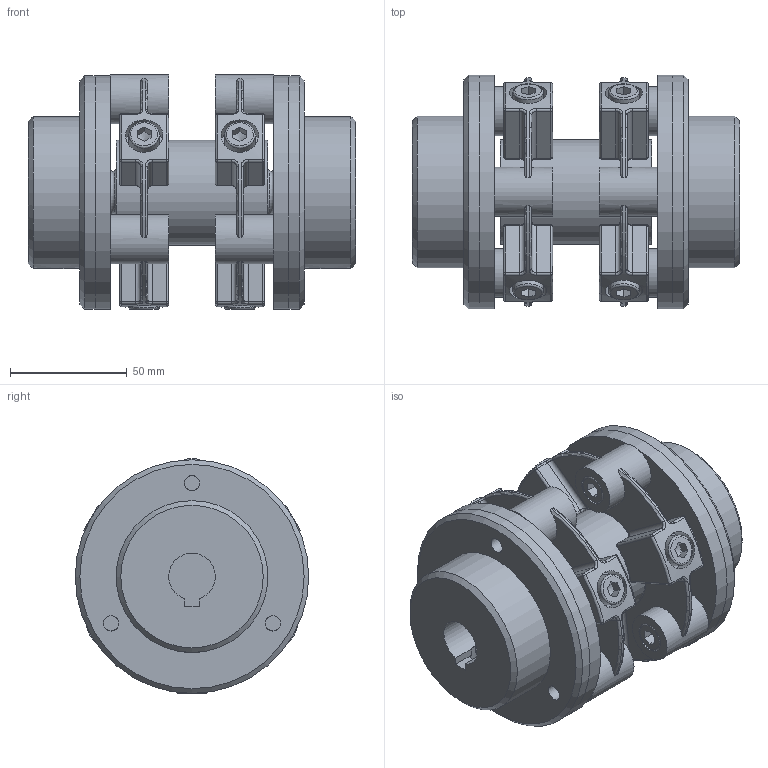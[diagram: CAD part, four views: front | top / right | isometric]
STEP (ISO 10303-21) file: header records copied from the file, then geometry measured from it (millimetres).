
FILE_DESCRIPTION(/* description */ (''),/* implementation_level */ '2;1');
FILE_NAME(/* name */ 'GXZ04-L80-20-PF-20-PF',/* time_stamp */ '2024-01-05T15:37:04+01:00',/* author */ ('M. Horlacher'),/* organization */ (''),/* preprocessor_version */ 'ST-DEVELOPER v20',/* originating_system */ 'Autodesk Inventor 2024',/* authorisation */ '');
FILE_SCHEMA (('AUTOMOTIVE_DESIGN { 1 0 10303 214 3 1 1 }'));
Length unit declared in the file: millimetre
Products named in the file (10): RP STEP; VE Rohr Dummy; GX04-Nabe; GX04 Befestigungssatz; 080305-1408s; 100305-1451s; ISO 4762 - M8 x 20 - 8.8 - VZ A1A; ISO 4762 - M8 x 25 - 8.8 - VZ A1A; GX04-Nabe_1; 260511-1417rb
Assembly tree (15 placements, depth 3):
  RP STEP
    VE Rohr Dummy
    GX04 Befestigungssatz  x2
      080305-1408s
      100305-1451s
      ISO 4762 - M8 x 20 - 8.8 - VZ A1A
      ISO 4762 - M8 x 25 - 8.8 - VZ A1A
    GX04-Nabe
    GX04-Nabe_1
    260511-1417rb  x2
Bounding box: 140 x 100 x 100.5 mm (x, y, z)
Volume: 530940.6 mm3; surface area: 186392.2 mm2
Topology: 21 solids, 21 shells, 624 faces, 1522 edges, 916 vertices
Faces by surface type: plane 214, cylinder 196, torus 86, sphere 50, bspline 48, cone 30
Full cylindrical faces by diameter (mm): 6.647 x14, 8 x30, 13 x18, 16 x6, 21 x6, 26 x2, 42 x3, 45 x3, 65 x2, 95 x4, 100 x4
Entity records: 9792 total; most frequent: CARTESIAN_POINT 2997, DIRECTION 1394, ORIENTED_EDGE 1290, EDGE_CURVE 645, AXIS2_PLACEMENT_3D 587, VERTEX_POINT 400, EDGE_LOOP 337, CIRCLE 307
